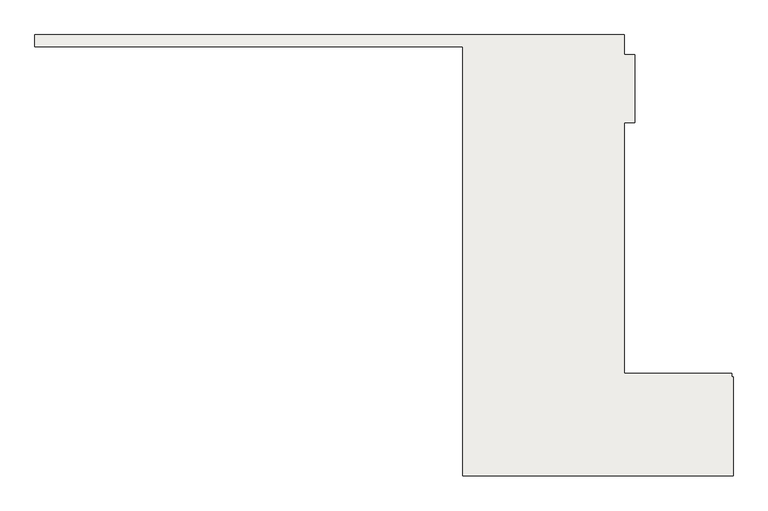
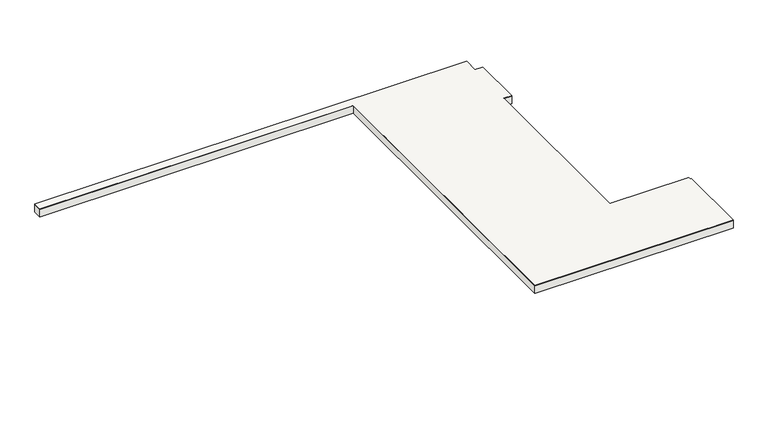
"""IFC4 building model written with IfcOpenShell, lengths in millimetres: slab geometry, Sol-02 - dalle béton 20cm + finition 1cm."""

from ifc_helpers import new_model, si_unit, frame, origin, origin_with_axes, place, context, project, spatial, polyline, outline, extrude, source, transform, mapped, element, save


def slab_76bbf6c5(model_context):
    return source(origin(), model_context, "Body", "SweptSolid", [
        extrude(outline(polyline([(49441.9999483, 2800.7753367), (44414.9999799, 2800.7753367), (44414.9999799, 10781.5656741), (36465.0000007, 10781.5656741), (36465.0000007, 11001.5656741), (47414.9999799, 11001.5656741), (47414.9999799, 10632.4979694), (47614.9999799, 10632.4979694), (47614.9999799, 9367.8430414), (47414.9999799, 9367.8430414), (47414.9999799, 4700.7753367), (49414.9999799, 4700.7753367), (49414.9999799, 4640.7753367), (49441.9999483, 4640.7753367), (49441.9999483, 2800.7753367)])), frame((0.0, 0.0, 200.0), z_axis=(0.0, 0.0, 1.0), x_axis=(1.0, 0.0, 0.0)), (0.0, 0.0, 1.0), 10.0),
        extrude(outline(polyline([(44414.9999799, 2800.7753367), (44414.9999799, 10781.5656741), (36465.0000007, 10781.5656741), (36465.0000007, 11001.5656741), (47414.9999799, 11001.5656741), (47414.9999799, 10632.4979694), (47614.9999799, 10632.4979694), (47614.9999799, 9367.8430414), (47414.9999799, 9367.8430414), (47414.9999799, 4700.7753367), (49414.9999799, 4700.7753367), (49414.9999799, 4640.7753367), (49441.9999483, 4640.7753367), (49441.9999483, 2800.7753367), (44414.9999799, 2800.7753367)])), origin_with_axes(), (0.0, 0.0, 1.0), 200.0),
    ])


if __name__ == "__main__":
    model = new_model("IFC4")
    model_context = context("Model", 3, world=origin())
    ifc_project = project(units=[si_unit("LENGTHUNIT", "METRE", prefix="MILLI")], contexts=[model_context])
    site = spatial("IfcSite", under=ifc_project)
    building = spatial("IfcBuilding", under=site)
    placement = place(None, origin())
    slab_shape = slab_76bbf6c5(model_context)
    element("IfcSlab", 1, ObjectType="Sol-02 - dalle béton 20cm + finition 1cm", at=placement, inside=building, context=model_context, shape_type="MappedRepresentation", body=[
        mapped(slab_shape, transform((0.0, 0.0, 0.0), x_axis=(1.0, 0.0, 0.0), y_axis=(0.0, 1.0, 0.0), z_axis=(0.0, 0.0, 1.0))),
    ])
    save(model, "model.ifc")
